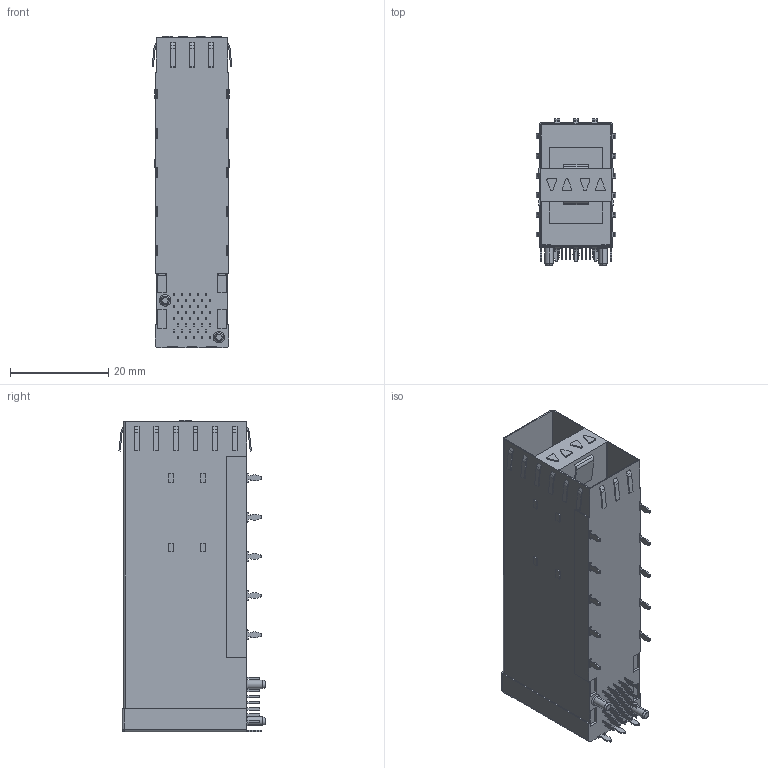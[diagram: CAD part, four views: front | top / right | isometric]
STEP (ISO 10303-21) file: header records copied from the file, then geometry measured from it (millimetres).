
FILE_DESCRIPTION (( 'STEP AP203' ), '1' );
FILE_NAME ('SFP 2X1 无月牙 内外导光柱.STEP', '2024-04-28T08:53:19', ( '' ), ( '' ), 'SwSTEP 2.0', 'SolidWorks 2018', '' );
FILE_SCHEMA (( 'CONFIG_CONTROL_DESIGN' ));
Length unit declared in the file: millimetre
Products named in the file (1): SFP 2X1 无月牙 内外导光柱
Bounding box: 16.3 x 29.8 x 63.5 mm (x, y, z)
Volume: 12100.1 mm3; surface area: 11017.7 mm2
Topology: 1 solids, 1 shells, 818 faces, 2184 edges, 1450 vertices
Faces by surface type: plane 590, cylinder 218, cone 8, sphere 2
Entity records: 25431 total; most frequent: CARTESIAN_POINT 4451, ORIENTED_EDGE 4364, DIRECTION 4264, EDGE_CURVE 2182, VECTOR 1738, LINE 1738, VERTEX_POINT 1450, AXIS2_PLACEMENT_3D 1263
